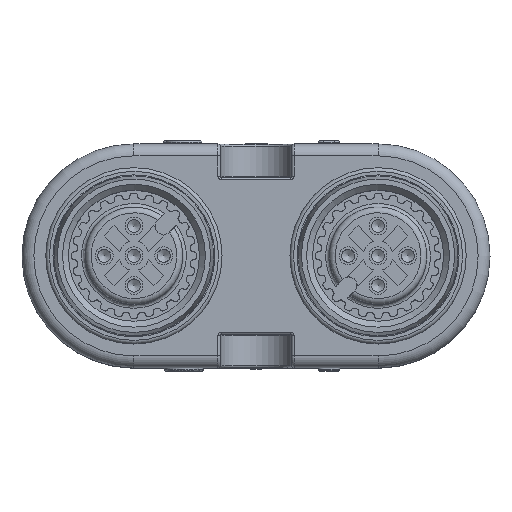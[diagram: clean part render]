
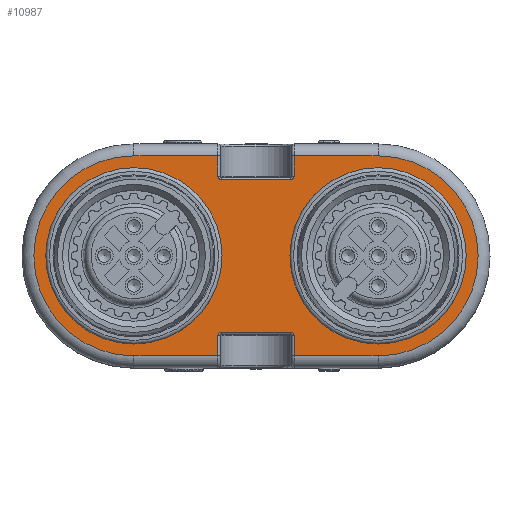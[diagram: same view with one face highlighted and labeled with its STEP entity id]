
A CAD part, top view. The second image highlights one B-rep face of the part: STEP entity #10987.
In plain terms, the highlighted planar face has unit normal (0, 0, 1).
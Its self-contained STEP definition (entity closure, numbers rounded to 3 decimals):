
#73=CARTESIAN_POINT('',(85.486,83.649,15.681));
#74=VERTEX_POINT('',#73);
#75=CARTESIAN_POINT('',(78.086,83.649,15.681));
#76=DIRECTION('',(0.,0.,-1.));
#77=DIRECTION('',(0.289,-0.957,0.));
#78=AXIS2_PLACEMENT_3D('',#75,#76,#77);
#79=CIRCLE('',#78,7.4);
#80=EDGE_CURVE('',#74,#74,#79,.T.);
#10832=CARTESIAN_POINT('',(88.336,83.649,15.681));
#10833=DIRECTION('',(0.0,0.0,1.0));
#10834=DIRECTION('',(1.0,0.0,0.0));
#10835=AXIS2_PLACEMENT_3D('',#10832,#10833,#10834);
#10836=PLANE('',#10835);
#10837=CARTESIAN_POINT('',(91.536,92.049,15.681));
#10838=VERTEX_POINT('',#10837);
#10839=CARTESIAN_POINT('',(91.536,90.349,15.681));
#10840=VERTEX_POINT('',#10839);
#10841=CARTESIAN_POINT('',(91.536,92.049,15.681));
#10842=DIRECTION('',(0.0,-1.0,0.0));
#10843=VECTOR('',#10842,1.7);
#10844=LINE('',#10841,#10843);
#10845=EDGE_CURVE('',#10838,#10840,#10844,.T.);
#10846=ORIENTED_EDGE('',*,*,#10845,.T.);
#10847=CARTESIAN_POINT('',(91.236,90.049,15.681));
#10848=VERTEX_POINT('',#10847);
#10849=CARTESIAN_POINT('',(91.236,90.349,15.681));
#10850=DIRECTION('',(0.,0.,-1.0));
#10851=DIRECTION('',(1.0,0.,0.));
#10852=AXIS2_PLACEMENT_3D('',#10849,#10850,#10851);
#10853=CIRCLE('',#10852,0.3);
#10854=EDGE_CURVE('',#10840,#10848,#10853,.T.);
#10855=ORIENTED_EDGE('',*,*,#10854,.T.);
#10856=CARTESIAN_POINT('',(85.436,90.049,15.681));
#10857=VERTEX_POINT('',#10856);
#10858=CARTESIAN_POINT('',(91.236,90.049,15.681));
#10859=DIRECTION('',(-1.0,0.0,0.0));
#10860=VECTOR('',#10859,5.8);
#10861=LINE('',#10858,#10860);
#10862=EDGE_CURVE('',#10848,#10857,#10861,.T.);
#10863=ORIENTED_EDGE('',*,*,#10862,.T.);
#10864=CARTESIAN_POINT('',(85.136,90.349,15.681));
#10865=VERTEX_POINT('',#10864);
#10866=CARTESIAN_POINT('',(85.436,90.349,15.681));
#10867=DIRECTION('',(0.,0.,-1.0));
#10868=DIRECTION('',(0.,-1.0,0.));
#10869=AXIS2_PLACEMENT_3D('',#10866,#10867,#10868);
#10870=CIRCLE('',#10869,0.3);
#10871=EDGE_CURVE('',#10857,#10865,#10870,.T.);
#10872=ORIENTED_EDGE('',*,*,#10871,.T.);
#10873=CARTESIAN_POINT('',(85.136,92.049,15.681));
#10874=VERTEX_POINT('',#10873);
#10875=CARTESIAN_POINT('',(85.136,90.349,15.681));
#10876=DIRECTION('',(0.0,1.0,0.0));
#10877=VECTOR('',#10876,1.7);
#10878=LINE('',#10875,#10877);
#10879=EDGE_CURVE('',#10865,#10874,#10878,.T.);
#10880=ORIENTED_EDGE('',*,*,#10879,.T.);
#10881=CARTESIAN_POINT('',(78.086,92.049,15.681));
#10882=VERTEX_POINT('',#10881);
#10883=CARTESIAN_POINT('',(85.136,92.049,15.681));
#10884=DIRECTION('',(-1.0,0.0,0.0));
#10885=VECTOR('',#10884,7.05);
#10886=LINE('',#10883,#10885);
#10887=EDGE_CURVE('',#10874,#10882,#10886,.T.);
#10888=ORIENTED_EDGE('',*,*,#10887,.T.);
#10889=CARTESIAN_POINT('',(78.086,75.249,15.681));
#10890=VERTEX_POINT('',#10889);
#10891=CARTESIAN_POINT('',(78.086,83.649,15.681));
#10892=DIRECTION('',(0.0,0.0,1.0));
#10893=DIRECTION('',(0.0,1.0,0.0));
#10894=AXIS2_PLACEMENT_3D('',#10891,#10892,#10893);
#10895=CIRCLE('',#10894,8.4);
#10896=EDGE_CURVE('',#10882,#10890,#10895,.T.);
#10897=ORIENTED_EDGE('',*,*,#10896,.T.);
#10898=CARTESIAN_POINT('',(85.136,75.249,15.681));
#10899=VERTEX_POINT('',#10898);
#10900=CARTESIAN_POINT('',(78.086,75.249,15.681));
#10901=DIRECTION('',(1.0,0.0,0.0));
#10902=VECTOR('',#10901,7.05);
#10903=LINE('',#10900,#10902);
#10904=EDGE_CURVE('',#10890,#10899,#10903,.T.);
#10905=ORIENTED_EDGE('',*,*,#10904,.T.);
#10906=CARTESIAN_POINT('',(85.136,76.949,15.681));
#10907=VERTEX_POINT('',#10906);
#10908=CARTESIAN_POINT('',(85.136,75.249,15.681));
#10909=DIRECTION('',(0.0,1.0,0.0));
#10910=VECTOR('',#10909,1.7);
#10911=LINE('',#10908,#10910);
#10912=EDGE_CURVE('',#10899,#10907,#10911,.T.);
#10913=ORIENTED_EDGE('',*,*,#10912,.T.);
#10914=CARTESIAN_POINT('',(85.436,77.249,15.681));
#10915=VERTEX_POINT('',#10914);
#10916=CARTESIAN_POINT('',(85.436,76.949,15.681));
#10917=DIRECTION('',(0.,0.,-1.0));
#10918=DIRECTION('',(-1.0,0.,0.));
#10919=AXIS2_PLACEMENT_3D('',#10916,#10917,#10918);
#10920=CIRCLE('',#10919,0.3);
#10921=EDGE_CURVE('',#10907,#10915,#10920,.T.);
#10922=ORIENTED_EDGE('',*,*,#10921,.T.);
#10923=CARTESIAN_POINT('',(91.236,77.249,15.681));
#10924=VERTEX_POINT('',#10923);
#10925=CARTESIAN_POINT('',(85.436,77.249,15.681));
#10926=DIRECTION('',(1.0,0.0,0.0));
#10927=VECTOR('',#10926,5.8);
#10928=LINE('',#10925,#10927);
#10929=EDGE_CURVE('',#10915,#10924,#10928,.T.);
#10930=ORIENTED_EDGE('',*,*,#10929,.T.);
#10931=CARTESIAN_POINT('',(91.536,76.949,15.681));
#10932=VERTEX_POINT('',#10931);
#10933=CARTESIAN_POINT('',(91.236,76.949,15.681));
#10934=DIRECTION('',(0.,0.,-1.0));
#10935=DIRECTION('',(0.,1.0,0.));
#10936=AXIS2_PLACEMENT_3D('',#10933,#10934,#10935);
#10937=CIRCLE('',#10936,0.3);
#10938=EDGE_CURVE('',#10924,#10932,#10937,.T.);
#10939=ORIENTED_EDGE('',*,*,#10938,.T.);
#10940=CARTESIAN_POINT('',(91.536,75.249,15.681));
#10941=VERTEX_POINT('',#10940);
#10942=CARTESIAN_POINT('',(91.536,76.949,15.681));
#10943=DIRECTION('',(0.0,-1.0,0.0));
#10944=VECTOR('',#10943,1.7);
#10945=LINE('',#10942,#10944);
#10946=EDGE_CURVE('',#10932,#10941,#10945,.T.);
#10947=ORIENTED_EDGE('',*,*,#10946,.T.);
#10948=CARTESIAN_POINT('',(98.586,75.249,15.681));
#10949=VERTEX_POINT('',#10948);
#10950=CARTESIAN_POINT('',(91.536,75.249,15.681));
#10951=DIRECTION('',(1.0,0.0,0.0));
#10952=VECTOR('',#10951,7.05);
#10953=LINE('',#10950,#10952);
#10954=EDGE_CURVE('',#10941,#10949,#10953,.T.);
#10955=ORIENTED_EDGE('',*,*,#10954,.T.);
#10956=CARTESIAN_POINT('',(98.586,92.049,15.681));
#10957=VERTEX_POINT('',#10956);
#10958=CARTESIAN_POINT('',(98.586,83.649,15.681));
#10959=DIRECTION('',(0.0,0.0,1.0));
#10960=DIRECTION('',(0.0,-1.0,0.0));
#10961=AXIS2_PLACEMENT_3D('',#10958,#10959,#10960);
#10962=CIRCLE('',#10961,8.4);
#10963=EDGE_CURVE('',#10949,#10957,#10962,.T.);
#10964=ORIENTED_EDGE('',*,*,#10963,.T.);
#10965=CARTESIAN_POINT('',(98.586,92.049,15.681));
#10966=DIRECTION('',(-1.0,0.0,0.0));
#10967=VECTOR('',#10966,7.05);
#10968=LINE('',#10965,#10967);
#10969=EDGE_CURVE('',#10957,#10838,#10968,.T.);
#10970=ORIENTED_EDGE('',*,*,#10969,.T.);
#10971=EDGE_LOOP('',(#10846,#10855,#10863,#10872,#10880,#10888,#10897,#10905,#10913,#10922,#10930,#10939,#10947,#10955,#10964,#10970));
#10972=FACE_OUTER_BOUND('',#10971,.T.);
#10973=ORIENTED_EDGE('',*,*,#80,.T.);
#10974=EDGE_LOOP('',(#10973));
#10975=FACE_BOUND('',#10974,.T.);
#10976=CARTESIAN_POINT('',(91.186,83.649,15.681));
#10977=VERTEX_POINT('',#10976);
#10978=CARTESIAN_POINT('',(98.586,83.649,15.681));
#10979=DIRECTION('',(0.,0.,-1.));
#10980=DIRECTION('',(-0.289,0.957,0.));
#10981=AXIS2_PLACEMENT_3D('',#10978,#10979,#10980);
#10982=CIRCLE('',#10981,7.4);
#10983=EDGE_CURVE('',#10977,#10977,#10982,.T.);
#10984=ORIENTED_EDGE('',*,*,#10983,.T.);
#10985=EDGE_LOOP('',(#10984));
#10986=FACE_BOUND('',#10985,.T.);
#10987=ADVANCED_FACE('',(#10972,#10975,#10986),#10836,.T.);
